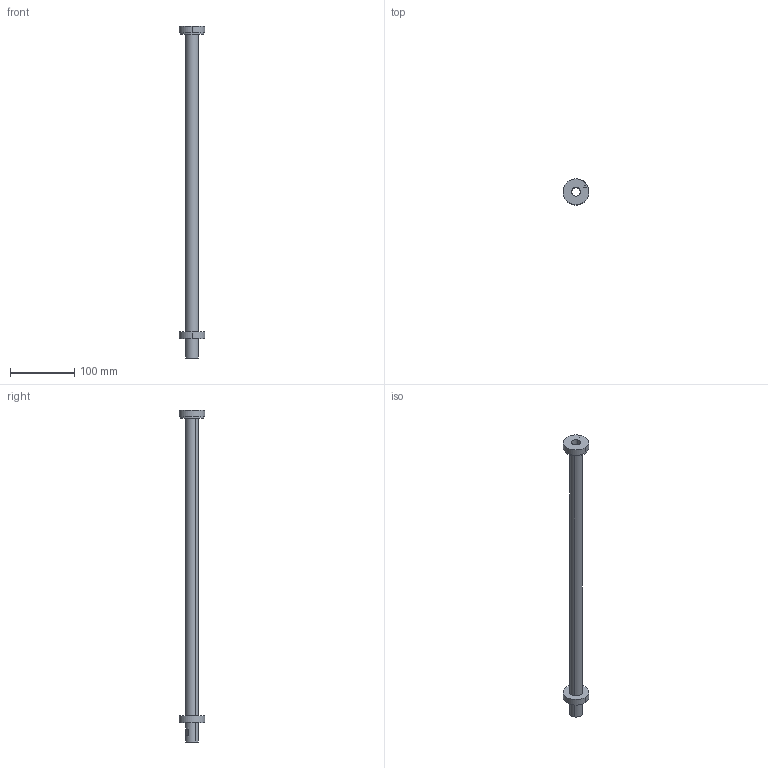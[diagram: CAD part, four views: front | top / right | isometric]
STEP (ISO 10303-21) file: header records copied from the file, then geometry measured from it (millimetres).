
FILE_DESCRIPTION (( 'STEP AP214' ), '1' );
FILE_NAME ('IRB920T_6kg-650-300-STD_OmniCore_rev00_LINK3_CAD.step', '2021-08-23T03:30:28', ( '' ), ( '' ), 'SwSTEP 2.0', 'SolidWorks 2018', '' );
FILE_SCHEMA (( 'AUTOMOTIVE_DESIGN' ));
Length unit declared in the file: millimetre
Products named in the file (1): IRB920T_6kg-650-300-STD_OmniCore_rev00_LINK3_CAD
Bounding box: 40 x 40 x 515 mm (x, y, z)
Volume: 103234.6 mm3; surface area: 61172.1 mm2
Topology: 1 solids, 3 shells, 48 faces, 102 edges, 67 vertices
Faces by surface type: cylinder 26, plane 16, cone 6
Entity records: 2056 total; most frequent: CARTESIAN_POINT 404, DIRECTION 250, ORIENTED_EDGE 200, AXIS2_PLACEMENT_3D 107, EDGE_CURVE 100, VERTEX_POINT 67, EDGE_LOOP 63, CIRCLE 58
